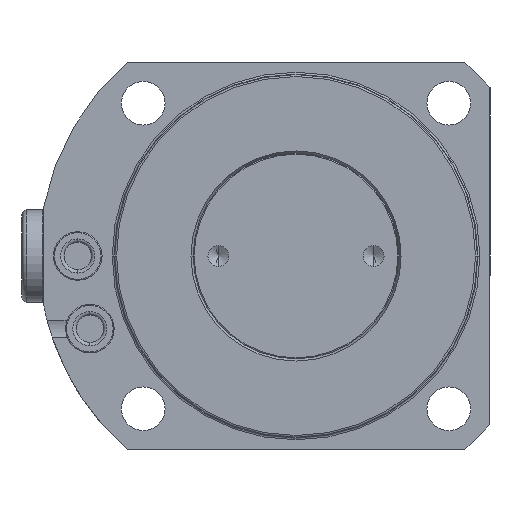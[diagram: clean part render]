
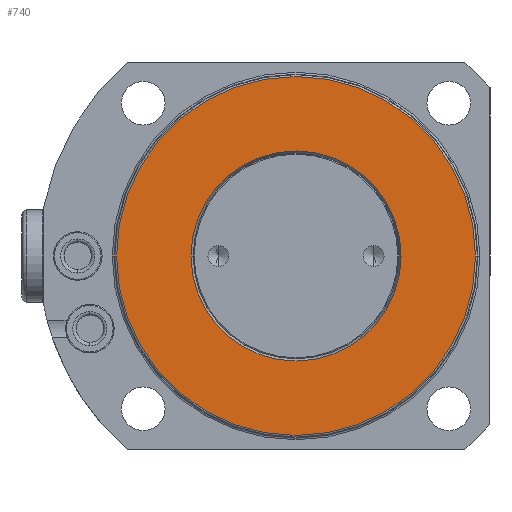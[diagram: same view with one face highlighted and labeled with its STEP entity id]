
A CAD part, front view. The second image highlights one B-rep face of the part: STEP entity #740.
In plain terms, the highlighted planar face has unit normal (0, -1, 0).
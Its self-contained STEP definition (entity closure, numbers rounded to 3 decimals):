
#316=PLANE('',#4081);
#371=FACE_BOUND('',#1235,.T.);
#372=FACE_BOUND('',#1236,.T.);
#740=ADVANCED_FACE('',(#371,#372),#316,.T.);
#1235=EDGE_LOOP('',(#2373,#2374));
#1236=EDGE_LOOP('',(#2375,#2376));
#2373=ORIENTED_EDGE('',*,*,#3277,.T.);
#2374=ORIENTED_EDGE('',*,*,#3336,.T.);
#2375=ORIENTED_EDGE('',*,*,#3272,.F.);
#2376=ORIENTED_EDGE('',*,*,#3337,.F.);
#2848=VERTEX_POINT('',#6534);
#2849=VERTEX_POINT('',#6535);
#2852=VERTEX_POINT('',#6543);
#2853=VERTEX_POINT('',#6545);
#3272=EDGE_CURVE('',#2848,#2849,#3590,.T.);
#3277=EDGE_CURVE('',#2853,#2852,#3594,.T.);
#3336=EDGE_CURVE('',#2852,#2853,#3623,.T.);
#3337=EDGE_CURVE('',#2849,#2848,#3624,.T.);
#3590=CIRCLE('',#4030,37.);
#3594=CIRCLE('',#4035,21.662);
#3623=CIRCLE('',#4078,21.662);
#3624=CIRCLE('',#4080,37.);
#4030=AXIS2_PLACEMENT_3D('',#6533,#5052,#5053);
#4035=AXIS2_PLACEMENT_3D('',#6544,#5063,#5064);
#4078=AXIS2_PLACEMENT_3D('',#6706,#5168,#5169);
#4080=AXIS2_PLACEMENT_3D('',#6708,#5172,#5173);
#4081=AXIS2_PLACEMENT_3D('',#6709,#5174,#5175);
#5052=DIRECTION('',(0.,1.,0.));
#5053=DIRECTION('',(-1.,0.,0.));
#5063=DIRECTION('',(0.,1.,0.));
#5064=DIRECTION('',(-1.,0.,0.));
#5168=DIRECTION('',(0.,1.,0.));
#5169=DIRECTION('',(-1.,0.,0.));
#5172=DIRECTION('',(0.,1.,0.));
#5173=DIRECTION('',(-1.,0.,0.));
#5174=DIRECTION('',(0.,-1.,0.));
#5175=DIRECTION('',(-1.,0.,0.));
#6533=CARTESIAN_POINT('',(0.,3.999,0.));
#6534=CARTESIAN_POINT('',(-37.,3.999,0.));
#6535=CARTESIAN_POINT('',(37.,3.999,0.));
#6543=CARTESIAN_POINT('',(-21.662,3.999,0.));
#6544=CARTESIAN_POINT('',(0.,3.999,0.));
#6545=CARTESIAN_POINT('',(21.662,3.999,0.));
#6706=CARTESIAN_POINT('',(0.,3.999,0.));
#6708=CARTESIAN_POINT('',(0.,3.999,0.));
#6709=CARTESIAN_POINT('',(0.,3.999,0.));
